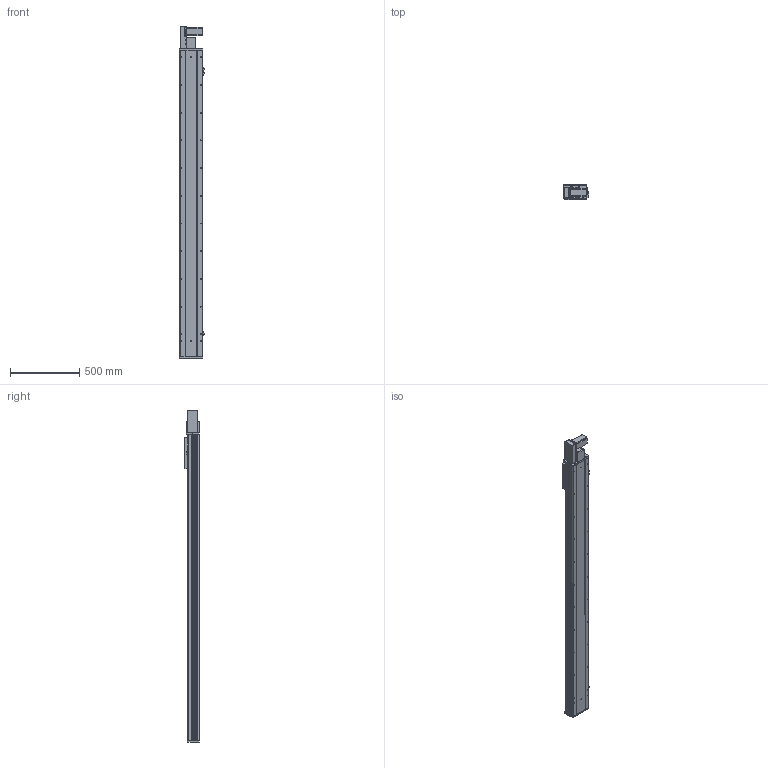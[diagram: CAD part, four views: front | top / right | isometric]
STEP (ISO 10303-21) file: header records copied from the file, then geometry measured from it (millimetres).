
FILE_DESCRIPTION (( 'STEP AP203' ), '1' );
FILE_NAME ('Y170CB-D105-S1900-BL-P400W.STEP', '2020-02-20T01:35:33', ( '微软用户' ), ( '微软中国' ), 'SwSTEP 2.0', 'SolidWorks 2017', '' );
FILE_SCHEMA (( 'CONFIG_CONTROL_DESIGN' ));
Length unit declared in the file: millimetre
Products named in the file (18): 0C--雄赽釱俋欶-170; san松下电机400不带刹车----; 70CB-詩湍--; Y70俋欶BR----; Y100-135俋离換覜ん--; 70CB-掛极-; Y170CB-陔俋离換覜結え---; --70CB --喘謫眊楊擘啣-; 70B喘謫眊----; 70CB-耜裔啣-; Y1埴倛裔; 70C--詩湍揤踡え-; B-源倛裔啣; Y170CB-D105-S1900-BL-P400W; 70CB--耜裔; 17B-耜蚾蟀諉啣----; 70C-雄赽釱-奻-; 0B-萇儂楊擘啣
Assembly tree (21 placements, depth 2):
  Y170CB-D105-S1900-BL-P400W
    B-源倛裔啣
    17B-耜蚾蟀諉啣----
    0B-萇儂楊擘啣
    san松下电机400不带刹车----
    Y70俋欶BR----
    70CB-掛极-
    --70CB --喘謫眊楊擘啣-
    70CB-耜裔啣-  x2
    70C--詩湍揤踡え-  x2
    70CB--耜裔
    70C-雄赽釱-奻-
    0C--雄赽釱俋欶-170
    70CB-詩湍--
    Y100-135俋离換覜ん--  x3
    Y170CB-陔俋离換覜結え---
    70B喘謫眊----
    Y1埴倛裔
Bounding box: 183.5 x 107 x 2397 mm (x, y, z)
Volume: 10080590.1 mm3; surface area: 3631665.7 mm2
Topology: 21 solids, 21 shells, 1047 faces, 2813 edges, 1866 vertices
Faces by surface type: cylinder 559, plane 464, cone 24
Entity records: 33488 total; most frequent: CARTESIAN_POINT 6156, DIRECTION 5446, ORIENTED_EDGE 5108, EDGE_CURVE 2554, AXIS2_PLACEMENT_3D 2004, VERTEX_POINT 1696, LINE 1438, VECTOR 1438
